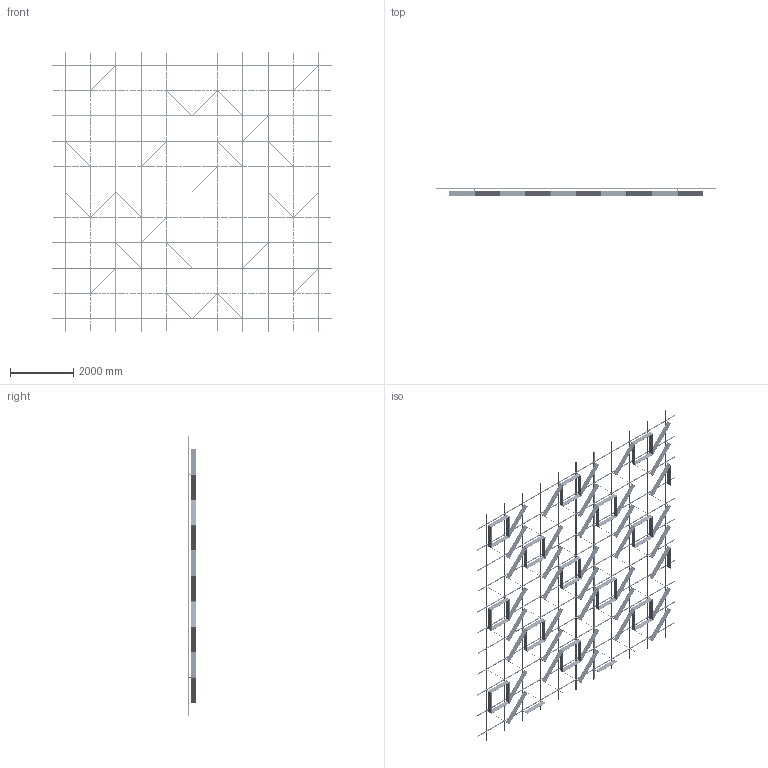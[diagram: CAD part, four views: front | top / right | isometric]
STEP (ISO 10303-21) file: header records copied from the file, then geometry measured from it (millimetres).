
FILE_DESCRIPTION (( 'STEP AP214' ), '1' );
FILE_NAME ('OPT_Var29.STEP', '2025-09-11T13:05:08', ( '' ), ( '' ), 'SwSTEP 2.0', 'SolidWorks 2020', '' );
FILE_SCHEMA (( 'AUTOMOTIVE_DESIGN' ));
Length unit declared in the file: millimetre
Products named in the file (5): 謶鎷ar29; Ñèñòåìà â çîíå 8000õ8000; SS.SEMA.2400 - Ñèìà-ïðîôèëü — îáðåçàí 1600; OPT_Var29; SS.SEMA.2400 - Ñèìà-ïðîôèëü
Assembly tree (90 placements, depth 3):
  OPT_Var29
    Ñèñòåìà â çîíå 8000õ8000
      SS.SEMA.2400 - Ñèìà-ïðîôèëü  x66
      SS.SEMA.2400 - Ñèìà-ïðîôèëü — îáðåçàí 1600  x22
    謶鎷ar29
Bounding box: 8800 x 253 x 8800 mm (x, y, z)
Volume: 172538084.9 mm3; surface area: 68927979.7 mm2
Topology: 679 solids, 679 shells, 19126 faces, 51896 edges, 34128 vertices
Faces by surface type: cylinder 12778, plane 6348
Entity records: 77836 total; most frequent: CARTESIAN_POINT 15460, DIRECTION 11286, ORIENTED_EDGE 10640, AXIS2_PLACEMENT_3D 5394, EDGE_CURVE 5320, VERTEX_POINT 3536, EDGE_LOOP 3132, FACE_OUTER_BOUND 2970
